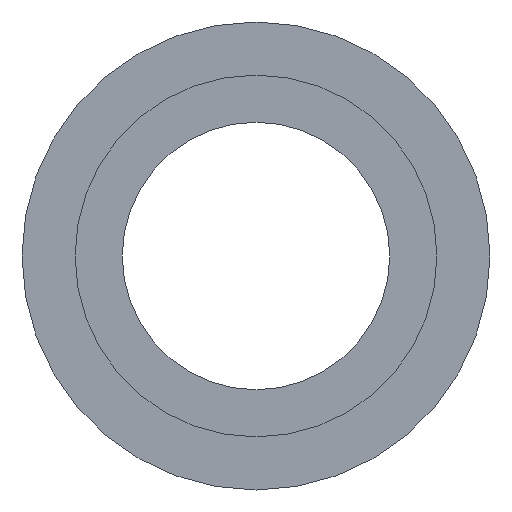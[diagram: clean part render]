
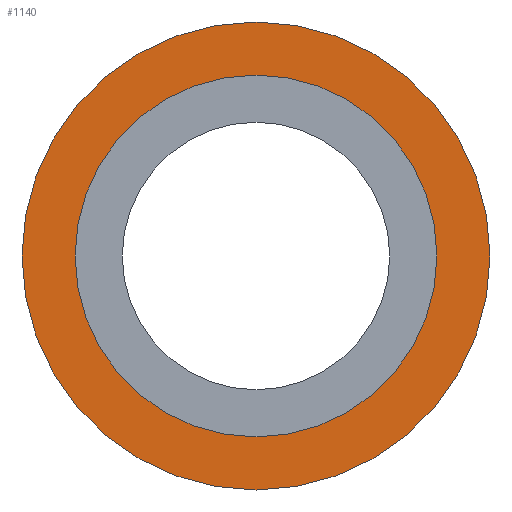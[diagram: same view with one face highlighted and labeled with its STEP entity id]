
A CAD part, left-side view. The second image highlights one B-rep face of the part: STEP entity #1140.
In plain terms, the highlighted planar face has unit normal (-1, 0, 0).
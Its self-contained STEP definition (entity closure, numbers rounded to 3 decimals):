
#100=CARTESIAN_POINT('',(58.49,10.7,0.));
#110=VERTEX_POINT('',#100);
#290=CARTESIAN_POINT('',(58.49,66.7,0.));
#300=VERTEX_POINT('',#290);
#330=CARTESIAN_POINT('',(58.49,38.7,0.));
#340=DIRECTION('',(1.,0.,0.));
#350=DIRECTION('',(0.,1.,0.));
#360=AXIS2_PLACEMENT_3D('',#330,#340,#350);
#370=CIRCLE('',#360,28.);
#380=EDGE_CURVE('',#110,#300,#370,.T.);
#890=CARTESIAN_POINT('',(58.49,12.125,0.));
#900=DIRECTION('',(1.,-0.,0.));
#910=DIRECTION('',(0.,1.,0.));
#920=AXIS2_PLACEMENT_3D('',#890,#900,#910);
#930=PLANE('',#920);
#940=CARTESIAN_POINT('',(58.49,38.7,0.));
#950=DIRECTION('',(1.,0.,0.));
#960=DIRECTION('',(0.,-1.,0.));
#970=AXIS2_PLACEMENT_3D('',#940,#950,#960);
#980=CIRCLE('',#970,21.65);
#990=CARTESIAN_POINT('',(58.49,17.05,0.));
#1000=VERTEX_POINT('',#990);
#1010=CARTESIAN_POINT('',(58.49,60.35,0.));
#1020=VERTEX_POINT('',#1010);
#1030=EDGE_CURVE('',#1000,#1020,#980,.T.);
#1040=ORIENTED_EDGE('',*,*,#1030,.T.);
#1050=EDGE_CURVE('',#1020,#1000,#980,.T.);
#1060=ORIENTED_EDGE('',*,*,#1050,.T.);
#1070=EDGE_LOOP('',(#1060,#1040));
#1080=FACE_BOUND('',#1070,.T.);
#1090=EDGE_CURVE('',#300,#110,#370,.T.);
#1100=ORIENTED_EDGE('',*,*,#1090,.F.);
#1110=ORIENTED_EDGE('',*,*,#380,.F.);
#1120=EDGE_LOOP('',(#1110,#1100));
#1130=FACE_OUTER_BOUND('',#1120,.T.);
#1140=ADVANCED_FACE('',(#1080,#1130),#930,.F.);
